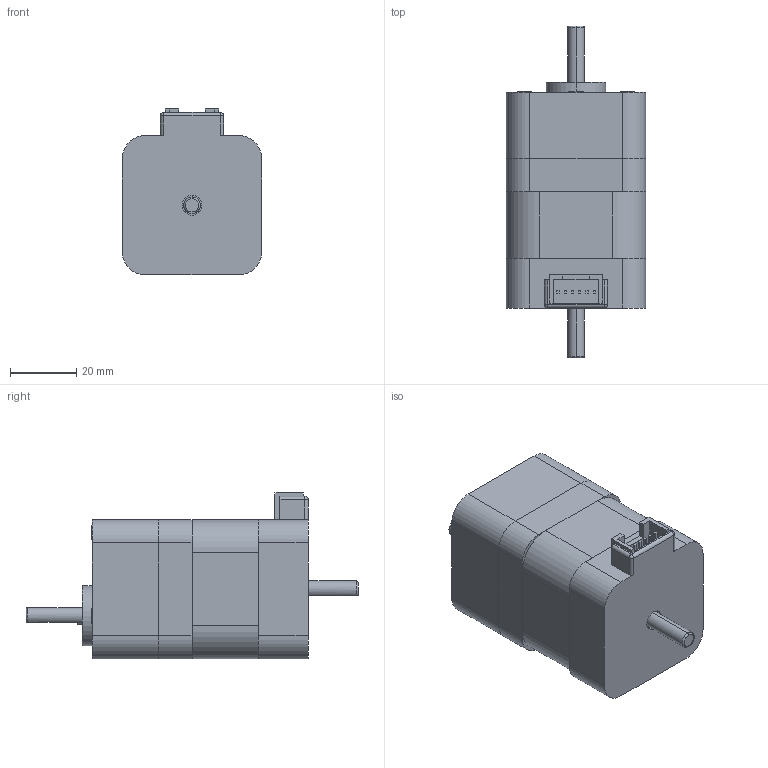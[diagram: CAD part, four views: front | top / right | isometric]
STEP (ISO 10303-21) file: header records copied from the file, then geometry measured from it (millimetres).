
FILE_DESCRIPTION (( 'STEP AP203' ), '1' );
FILE_NAME ('S42D偏心减速步进电机.STEP', '2019-11-23T06:07:41', ( 'China' ), ( 'Home' ), 'SwSTEP 2.0', 'SolidWorks 2016', '' );
FILE_SCHEMA (( 'CONFIG_CONTROL_DESIGN' ));
Length unit declared in the file: millimetre
Products named in the file (1): S42Dぇ陑熬厒祭輛萇儂
Bounding box: 42 x 100 x 50 mm (x, y, z)
Volume: 112734.3 mm3; surface area: 26069.5 mm2
Topology: 6 solids, 6 shells, 203 faces, 505 edges, 320 vertices
Faces by surface type: plane 127, cylinder 48, cone 16, torus 10, sphere 2
Entity records: 6028 total; most frequent: CARTESIAN_POINT 1063, DIRECTION 1031, ORIENTED_EDGE 990, EDGE_CURVE 495, LINE 359, VECTOR 359, AXIS2_PLACEMENT_3D 336, VERTEX_POINT 320
